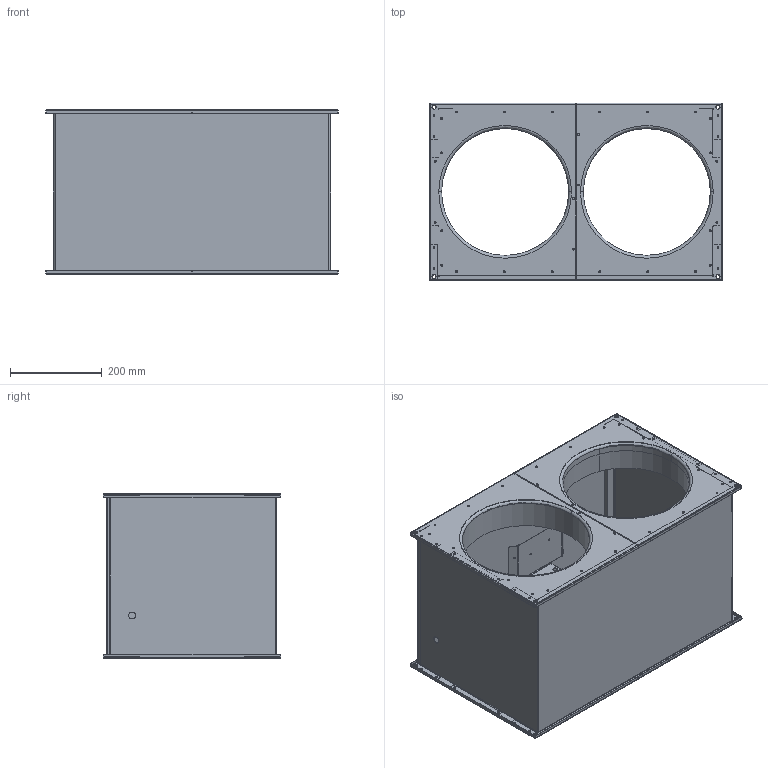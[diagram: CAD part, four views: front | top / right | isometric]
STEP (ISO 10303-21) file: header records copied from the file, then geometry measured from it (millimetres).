
FILE_DESCRIPTION (( 'STEP AP203' ), '1' );
FILE_NAME ('127734-00_ELKI6035E211.STEP', '2013-09-25T07:49:57', ( '' ), ( '' ), 'SwSTEP 2.0', 'SolidWorks 2012', '' );
FILE_SCHEMA (( 'CONFIG_CONTROL_DESIGN' ));
Length unit declared in the file: millimetre
Products named in the file (1): 127734-00_ELKI6035E211
Bounding box: 639.5 x 388 x 359 mm (x, y, z)
Surface area: 2493605.6 mm2 (no closed solid volume)
Topology: 0 solids, 90 shells, 588 faces, 2059 edges, 1501 vertices
Faces by surface type: cylinder 388, plane 182, bspline 10, torus 8
Entity records: 24012 total; most frequent: CARTESIAN_POINT 5501, DIRECTION 4164, ORIENTED_EDGE 3096, EDGE_CURVE 2059, AXIS2_PLACEMENT_3D 1588, VERTEX_POINT 1501, CIRCLE 1009, VECTOR 988
